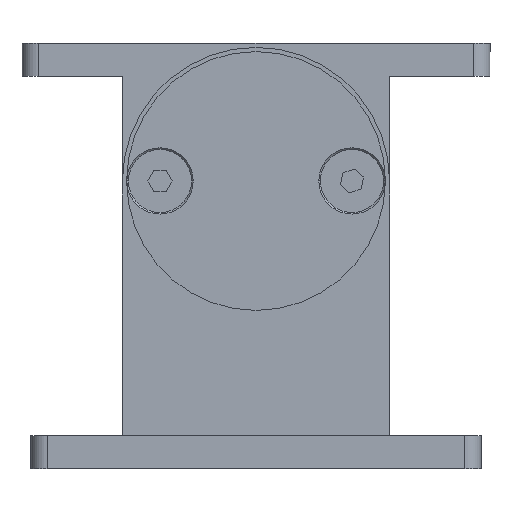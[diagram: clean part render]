
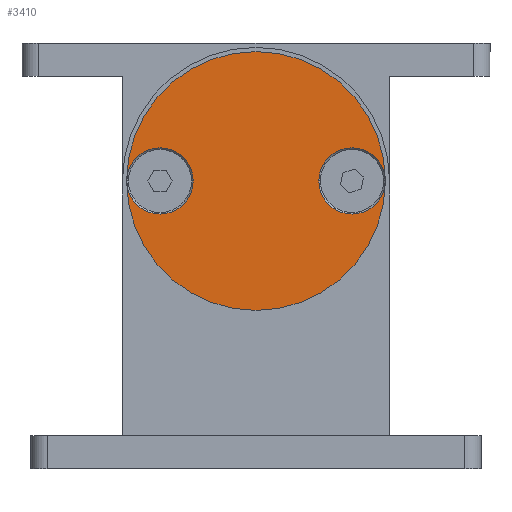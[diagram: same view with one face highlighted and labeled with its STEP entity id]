
A CAD part, front view. The second image highlights one B-rep face of the part: STEP entity #3410.
In plain terms, the highlighted planar face has unit normal (0, -1, 0) as drawn and (0, 0, 1) by its records, which use the part's own axes.
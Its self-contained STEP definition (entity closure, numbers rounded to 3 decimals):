
#15 = CIRCLE ( 'NONE', #2845, 6.3 ) ;
#120 = CARTESIAN_POINT ( 'NONE',  ( -24.606, 0., 3.175 ) ) ;
#166 = DIRECTION ( 'NONE',  ( 0., 0., -1. ) ) ;
#229 = AXIS2_PLACEMENT_3D ( 'NONE', #5400, #4991, #2821 ) ;
#254 = AXIS2_PLACEMENT_3D ( 'NONE', #1812, #166, #4005 ) ;
#349 = CIRCLE ( 'NONE', #254, 6.3 ) ;
#454 = CARTESIAN_POINT ( 'NONE',  ( 24.556, 0., 3.175 ) ) ;
#473 = EDGE_CURVE ( 'NONE', #3202, #2554, #4388, .T. ) ;
#504 = CARTESIAN_POINT ( 'NONE',  ( 18.256, 0., 3.175 ) ) ;
#559 = CARTESIAN_POINT ( 'NONE',  ( -18.256, 0., 3.175 ) ) ;
#591 = EDGE_LOOP ( 'NONE', ( #2418, #2024 ) ) ;
#622 = EDGE_CURVE ( 'NONE', #3059, #3897, #349, .T. ) ;
#704 = CARTESIAN_POINT ( 'NONE',  ( -11.956, 0., 3.175 ) ) ;
#958 = PLANE ( 'NONE',  #3729 ) ;
#985 = CIRCLE ( 'NONE', #3102, 24.606 ) ;
#987 = CARTESIAN_POINT ( 'NONE',  ( 0., 0., 3.175 ) ) ;
#1024 = DIRECTION ( 'NONE',  ( 1., 0., 0. ) ) ;
#1054 = EDGE_CURVE ( 'NONE', #3897, #3059, #15, .T. ) ;
#1112 = CIRCLE ( 'NONE', #229, 24.606 ) ;
#1772 = FACE_BOUND ( 'NONE', #591, .T. ) ;
#1812 = CARTESIAN_POINT ( 'NONE',  ( -18.256, 0., 3.175 ) ) ;
#1848 = DIRECTION ( 'NONE',  ( -1., 0., 0. ) ) ;
#2024 = ORIENTED_EDGE ( 'NONE', *, *, #622, .T. ) ;
#2102 = VERTEX_POINT ( 'NONE', #4977 ) ;
#2272 = VERTEX_POINT ( 'NONE', #120 ) ;
#2291 = DIRECTION ( 'NONE',  ( 1., 0., 0. ) ) ;
#2362 = CIRCLE ( 'NONE', #3698, 6.3 ) ;
#2418 = ORIENTED_EDGE ( 'NONE', *, *, #1054, .T. ) ;
#2554 = VERTEX_POINT ( 'NONE', #3695 ) ;
#2694 = AXIS2_PLACEMENT_3D ( 'NONE', #504, #4747, #5137 ) ;
#2730 = CARTESIAN_POINT ( 'NONE',  ( 18.256, 0., 3.175 ) ) ;
#2766 = EDGE_LOOP ( 'NONE', ( #3187, #3933 ) ) ;
#2821 = DIRECTION ( 'NONE',  ( 1., 0., 0. ) ) ;
#2845 = AXIS2_PLACEMENT_3D ( 'NONE', #559, #3022, #4766 ) ;
#2986 = EDGE_CURVE ( 'NONE', #2554, #3202, #2362, .T. ) ;
#3022 = DIRECTION ( 'NONE',  ( 0., 0., -1. ) ) ;
#3059 = VERTEX_POINT ( 'NONE', #4100 ) ;
#3102 = AXIS2_PLACEMENT_3D ( 'NONE', #3553, #3526, #1024 ) ;
#3115 = FACE_BOUND ( 'NONE', #2766, .T. ) ;
#3187 = ORIENTED_EDGE ( 'NONE', *, *, #473, .T. ) ;
#3202 = VERTEX_POINT ( 'NONE', #454 ) ;
#3341 = EDGE_CURVE ( 'NONE', #2102, #2272, #985, .T. ) ;
#3410 = ADVANCED_FACE ( 'NONE', ( #1772, #3115, #5016 ), #958, .F. ) ;
#3526 = DIRECTION ( 'NONE',  ( 0., 0., -1. ) ) ;
#3541 = EDGE_CURVE ( 'NONE', #2272, #2102, #1112, .T. ) ;
#3553 = CARTESIAN_POINT ( 'NONE',  ( 0., 0., 3.175 ) ) ;
#3695 = CARTESIAN_POINT ( 'NONE',  ( 11.956, 0., 3.175 ) ) ;
#3698 = AXIS2_PLACEMENT_3D ( 'NONE', #2730, #5315, #2291 ) ;
#3729 = AXIS2_PLACEMENT_3D ( 'NONE', #987, #3971, #1848 ) ;
#3744 = EDGE_LOOP ( 'NONE', ( #5443, #3899 ) ) ;
#3897 = VERTEX_POINT ( 'NONE', #704 ) ;
#3899 = ORIENTED_EDGE ( 'NONE', *, *, #3541, .F. ) ;
#3933 = ORIENTED_EDGE ( 'NONE', *, *, #2986, .T. ) ;
#3971 = DIRECTION ( 'NONE',  ( 0., 0., -1. ) ) ;
#4005 = DIRECTION ( 'NONE',  ( 1., 0., 0. ) ) ;
#4100 = CARTESIAN_POINT ( 'NONE',  ( -24.556, 0., 3.175 ) ) ;
#4388 = CIRCLE ( 'NONE', #2694, 6.3 ) ;
#4747 = DIRECTION ( 'NONE',  ( 0., 0., -1. ) ) ;
#4766 = DIRECTION ( 'NONE',  ( 1., 0., 0. ) ) ;
#4977 = CARTESIAN_POINT ( 'NONE',  ( 24.606, 0., 3.175 ) ) ;
#4991 = DIRECTION ( 'NONE',  ( 0., 0., -1. ) ) ;
#5016 = FACE_OUTER_BOUND ( 'NONE', #3744, .T. ) ;
#5137 = DIRECTION ( 'NONE',  ( 1., 0., 0. ) ) ;
#5315 = DIRECTION ( 'NONE',  ( 0., 0., -1. ) ) ;
#5400 = CARTESIAN_POINT ( 'NONE',  ( 0., 0., 3.175 ) ) ;
#5443 = ORIENTED_EDGE ( 'NONE', *, *, #3341, .F. ) ;
